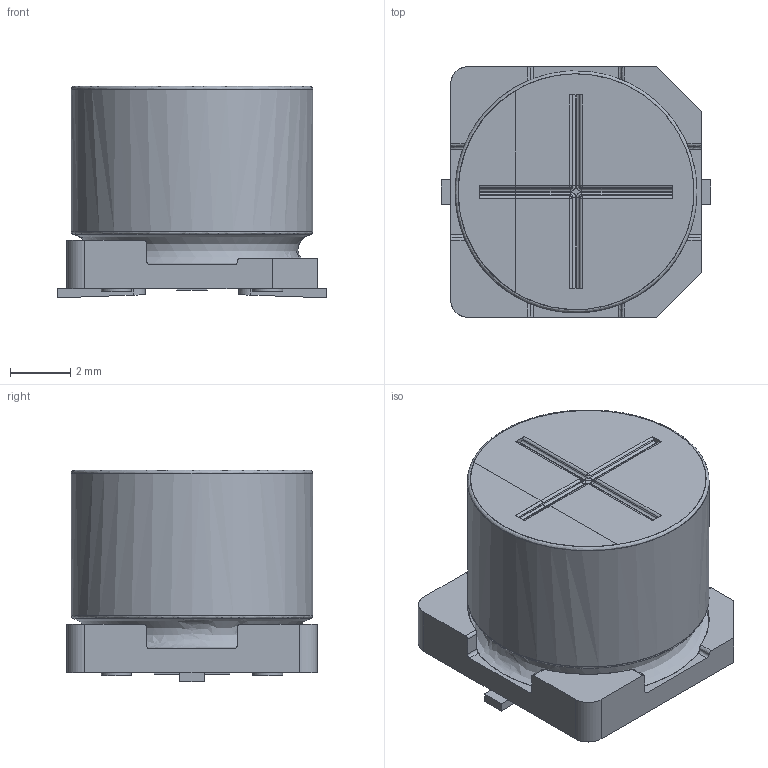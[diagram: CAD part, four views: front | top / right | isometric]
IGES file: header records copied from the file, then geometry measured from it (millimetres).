
Start section: JAMA-IS VERSION  1.0
Bounding box: 8.9 x 8.3 x 7 mm (x, y, z)
Surface area: 468.2 mm2 (no closed solid volume)
Topology: 0 solids, 0 shells, 132 faces, 1288 edges, 1270 vertices
Faces by surface type: bspline 132
